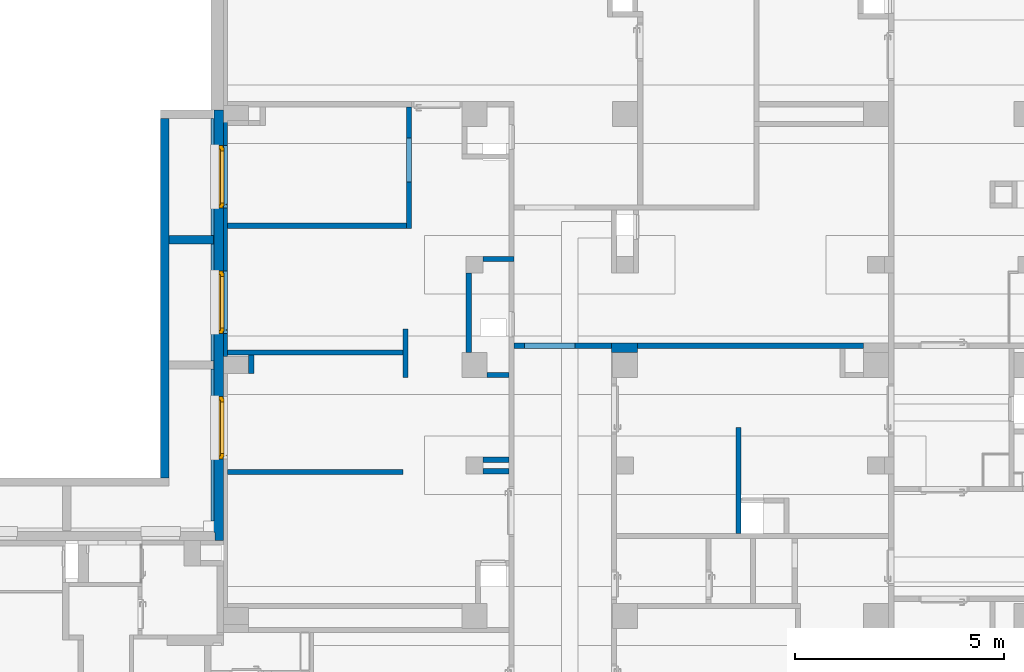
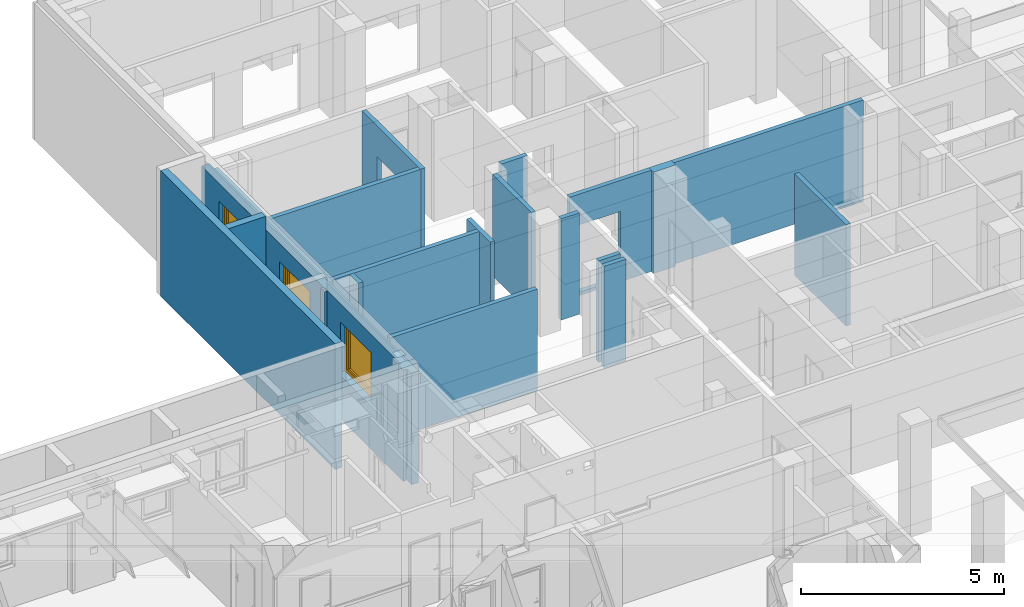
# One storey, part 31 of 84: 19 walls, 3 windows, 8 openings.
"""IFC4 building model written with IfcOpenShell, lengths in metres."""

import ifcopenshell
import ifcopenshell.guid

model = None  # the IFC model being written
_history = None  # IfcOwnerHistory: only IFC2X3 demands one
_inside = {}  # id of a spatial element -> (the spatial element, [elements in it])
_under = {}  # id of a project, library or spatial element -> (it, [spatial elements below it])
_declared = {}  # id of a project -> (the project, [libraries it declares])
_typed = {}  # id of a type object -> (the type object, [elements of that type])
_made_of = {}  # id of a material, layer set ... -> (it, [elements and type objects made of it])


def new_model(schema):
    """Start an empty IFC model of exactly this schema.

    Asked for "IFC4X3", IfcOpenShell would pick the latest addendum, in which some entities
    have other attributes; the version numbers below select the first issue.
    IFC2X3 requires an IfcOwnerHistory on every rooted entity: one is made here for all.
    """
    global model, _history
    if schema == "IFC4X3":
        model = ifcopenshell.file(schema_version=(4, 3, 0, 0))
    else:
        model = ifcopenshell.file(schema=schema)
    _inside.clear()
    _under.clear()
    _declared.clear()
    _typed.clear()
    _made_of.clear()
    _history = None
    if model.schema == "IFC2X3":
        org = make("IfcOrganization", Name="unknown")
        user = make(
            "IfcPersonAndOrganization",
            ThePerson=make("IfcPerson", FamilyName="unknown"),
            TheOrganization=org,
        )
        app = make(
            "IfcApplication",
            ApplicationDeveloper=org,
            Version="unknown",
            ApplicationFullName="unknown",
            ApplicationIdentifier="unknown",
        )
        _history = make(
            "IfcOwnerHistory",
            OwningUser=user,
            OwningApplication=app,
            ChangeAction="ADDED",
            CreationDate=0,
        )
    return model


def make(cls, **values):
    """One entity of the class cls with the attributes given. An attribute that is None is left unset."""
    return model.create_entity(
        cls, **{name: value for name, value in values.items() if value is not None}
    )


def entity(cls, *values):
    """Any entity or typed value of the class cls, its attributes in the order of the schema. None: left unset."""
    e = model.create_entity(cls)
    for i, value in enumerate(values):
        if value is not None:
            e[i] = value
    return e


def rooted(cls, **values):
    """An entity with a GlobalId (a new one), such as an element, a storey or a relation."""
    return make(cls, GlobalId=ifcopenshell.guid.new(), OwnerHistory=_history, **values)


def si_unit(unit_type, name, prefix=None):
    """IfcSIUnit, for example si_unit("LENGTHUNIT", "METRE", prefix="MILLI")."""
    return make("IfcSIUnit", UnitType=unit_type, Prefix=prefix, Name=name)


def converted_unit(unit_type, name, factor, base, dimensions=None, offset=None):
    """IfcConversionBasedUnit, such as the inch: factor (a typed value) times the base unit."""
    return make(
        "IfcConversionBasedUnit"
        if offset is None
        else "IfcConversionBasedUnitWithOffset",
        ConversionOffset=offset,
        Dimensions=None
        if dimensions is None
        else entity("IfcDimensionalExponents", *dimensions),
        UnitType=unit_type,
        Name=name,
        ConversionFactor=make(
            "IfcMeasureWithUnit", ValueComponent=factor, UnitComponent=base
        ),
    )


def derived_unit(unit_type, elements):
    """IfcDerivedUnit: a product of units, each with its exponent."""
    return make(
        "IfcDerivedUnit",
        Elements=[
            make("IfcDerivedUnitElement", Unit=unit, Exponent=power)
            for unit, power in elements
        ],
        UnitType=unit_type,
    )


def assignment(units):
    """IfcUnitAssignment: the units of a project."""
    return None if units is None else make("IfcUnitAssignment", Units=units)


def point(xyz):
    """IfcCartesianPoint."""
    return None if xyz is None else make("IfcCartesianPoint", Coordinates=xyz)


def direction(xyz):
    """IfcDirection."""
    return None if xyz is None else make("IfcDirection", DirectionRatios=xyz)


def frame(location, z_axis=None, x_axis=None):
    """IfcAxis2Placement3D, a coordinate frame: its origin and axes. An axis left out is left unset."""
    return make(
        "IfcAxis2Placement3D",
        Location=point(location),
        Axis=direction(z_axis),
        RefDirection=direction(x_axis),
    )


def frame_2d(location, x_axis=None):
    """IfcAxis2Placement2D, a coordinate frame in the plane: its origin and x axis."""
    return make(
        "IfcAxis2Placement2D", Location=point(location), RefDirection=direction(x_axis)
    )


def origin():
    """The frame at (0, 0, 0) with its axes left unset."""
    return frame((0.0, 0.0, 0.0))


def origin_with_axes():
    """The frame at (0, 0, 0) with the z axis (0, 0, 1) and the x axis (1, 0, 0) written out."""
    return frame((0.0, 0.0, 0.0), z_axis=(0.0, 0.0, 1.0), x_axis=(1.0, 0.0, 0.0))


def place(relative_to, where):
    """IfcLocalPlacement: puts the frame where relative to a parent placement (None: the world)."""
    return make(
        "IfcLocalPlacement", PlacementRelTo=relative_to, RelativePlacement=where
    )


def context(
    kind, dimensions, precision=None, world=None, true_north=None, identifier=None
):
    """IfcGeometricRepresentationContext, for example the 3D "Model" context."""
    return make(
        "IfcGeometricRepresentationContext",
        ContextIdentifier=identifier,
        ContextType=kind,
        CoordinateSpaceDimension=dimensions,
        Precision=precision,
        WorldCoordinateSystem=world,
        TrueNorth=true_north,
    )


def subcontext(parent, identifier, kind, view, scale=None):
    """IfcGeometricRepresentationSubContext, for example "Body" below "Model"."""
    return make(
        "IfcGeometricRepresentationSubContext",
        ContextIdentifier=identifier,
        ContextType=kind,
        ParentContext=parent,
        TargetScale=scale,
        TargetView=view,
    )


def project(units=None, contexts=None):
    """IfcProject with its units and contexts."""
    return rooted(
        "IfcProject",
        Name="project",
        RepresentationContexts=contexts,
        UnitsInContext=assignment(units),
    )


def spatial(cls, under=None, at=None, **own):
    """A site, building, storey or space (cls), placed at a placement, below another one or the project."""
    s = rooted(cls, ObjectPlacement=at, **own)
    if under is not None:
        _under.setdefault(under.id(), (under, []))[1].append(s)
    return s


def polyline(points):
    """IfcPolyline through the points."""
    return make("IfcPolyline", Points=[point(p) for p in points])


def profile(cls, at=None, kind="AREA", **sizes):
    """A parametric profile (cls). Its sizes go by their IFC names, for example OverallWidth=200.0."""
    return make(cls, ProfileType=kind, Position=at, **sizes)


def rectangle(**sizes):
    """IfcRectangleProfileDef."""
    return profile("IfcRectangleProfileDef", **sizes)


def outline(outer, holes=None, kind="AREA"):
    """IfcArbitraryClosedProfileDef: a profile drawn as a closed curve; with holes, ...WithVoids."""
    if holes is None:
        return make("IfcArbitraryClosedProfileDef", ProfileType=kind, OuterCurve=outer)
    return make(
        "IfcArbitraryProfileDefWithVoids",
        ProfileType=kind,
        OuterCurve=outer,
        InnerCurves=holes,
    )


def extrude(swept, where, along, depth):
    """IfcExtrudedAreaSolid: the profile swept, set in the frame where, extruded along a direction by depth."""
    return make(
        "IfcExtrudedAreaSolid",
        SweptArea=swept,
        Position=where,
        ExtrudedDirection=direction(along),
        Depth=depth,
    )


def clip(a, b, op="DIFFERENCE"):
    """IfcBooleanClippingResult: the solid a cut by the half space b."""
    return make(
        "IfcBooleanClippingResult", Operator=op, FirstOperand=a, SecondOperand=b
    )


def bounded_halfspace(plane, agree, where, boundary):
    """IfcPolygonalBoundedHalfSpace: a half space limited to a polygon's prism."""
    return make(
        "IfcPolygonalBoundedHalfSpace",
        BaseSurface=make("IfcPlane", Position=plane),
        AgreementFlag=agree,
        Position=where,
        PolygonalBoundary=boundary,
    )


def faces_of(points, faces, orient=None, outer=None):
    """IfcFace entities. A face is a list of loops; a loop is a list of indices into points, from 0.

    orient and outer hold one flag for each loop. By default every Orientation is true, the
    first loop of a face is its IfcFaceOuterBound and the others are IfcFaceBound.
    """
    made = []
    for i, loops in enumerate(faces):
        bounds = []
        for j, loop in enumerate(loops):
            is_outer = j == 0 if outer is None else outer[i][j]
            bounds.append(
                make(
                    "IfcFaceOuterBound" if is_outer else "IfcFaceBound",
                    Bound=make("IfcPolyLoop", Polygon=[points[k] for k in loop]),
                    Orientation=True if orient is None else orient[i][j],
                )
            )
        made.append(make("IfcFace", Bounds=bounds))
    return made


def closed_shell(faces, orient=None, outer=None):
    """The faces of one IfcClosedShell. faceted_brep and surface_model build it on their shared points."""
    return ("IfcClosedShell", faces, orient, outer)


def open_shell(faces, orient=None, outer=None):
    """The faces of one IfcOpenShell. surface_model builds it on its shared points."""
    return ("IfcOpenShell", faces, orient, outer)


def surface_model(cls, points, shells):
    """IfcFaceBasedSurfaceModel or IfcShellBasedSurfaceModel (cls): surfaces that need not close."""
    shared = [point(p) for p in points]
    made = [make(c, CfsFaces=faces_of(shared, fs, o, b)) for c, fs, o, b in shells]
    if cls == "IfcFaceBasedSurfaceModel":
        return make(cls, FbsmFaces=made)
    return make(cls, SbsmBoundary=made)


def shape(context_of_items, identifier, shape_type, items):
    """IfcShapeRepresentation: the items that make up one representation, for example the "Body"."""
    return make(
        "IfcShapeRepresentation",
        ContextOfItems=context_of_items,
        RepresentationIdentifier=identifier,
        RepresentationType=shape_type,
        Items=items,
    )


def source(mapping_origin, context_of_items, identifier, shape_type, items):
    """IfcRepresentationMap: a shape defined once, which mapped items show again and again."""
    return make(
        "IfcRepresentationMap",
        MappingOrigin=mapping_origin,
        MappedRepresentation=shape(context_of_items, identifier, shape_type, items),
    )


def transform(
    local_origin,
    x_axis=None,
    y_axis=None,
    z_axis=None,
    scale=None,
    scale2=None,
    scale3=None,
    uniform=True,
):
    """IfcCartesianTransformationOperator3D, or its non-uniform kind. x_axis, y_axis, z_axis: its Axis1, 2, 3."""
    if uniform:
        return make(
            "IfcCartesianTransformationOperator3D",
            Axis1=direction(x_axis),
            Axis2=direction(y_axis),
            LocalOrigin=point(local_origin),
            Scale=scale,
            Axis3=direction(z_axis),
        )
    return make(
        "IfcCartesianTransformationOperator3DnonUniform",
        Axis1=direction(x_axis),
        Axis2=direction(y_axis),
        LocalOrigin=point(local_origin),
        Scale=scale,
        Axis3=direction(z_axis),
        Scale2=scale2,
        Scale3=scale3,
    )


def mapped(mapping_source, mapping_target):
    """IfcMappedItem: shows the shape of a source again, moved by a transform."""
    return make(
        "IfcMappedItem", MappingSource=mapping_source, MappingTarget=mapping_target
    )


def material(Name=None, Category=None):
    """IfcMaterial."""
    return make("IfcMaterial", Name=Name, Category=Category)


def layer(
    of_material, thickness, ventilated=None, Name=None, Category=None, Priority=None
):
    """IfcMaterialLayer: one layer of a wall or slab, of a material (None: an air gap)."""
    return make(
        "IfcMaterialLayer",
        Material=of_material,
        LayerThickness=thickness,
        IsVentilated=ventilated,
        Name=Name,
        Category=Category,
        Priority=Priority,
    )


def layer_set(layers, Name=None):
    """IfcMaterialLayerSet."""
    return make("IfcMaterialLayerSet", MaterialLayers=layers, LayerSetName=Name)


def layer_usage(for_layer_set, set_direction, sense, offset, extent=None):
    """IfcMaterialLayerSetUsage: how a layer set lies in its element."""
    return make(
        "IfcMaterialLayerSetUsage",
        ForLayerSet=for_layer_set,
        LayerSetDirection=set_direction,
        DirectionSense=sense,
        OffsetFromReferenceLine=offset,
        ReferenceExtent=extent,
    )


def made_of(thing, what):
    """Note that an element or type object is made of a material, layer set ...; save() writes the relation."""
    if what is not None:
        _made_of.setdefault(what.id(), (what, []))[1].append(thing)
    return thing


def element(
    cls,
    number,
    at=None,
    inside=None,
    cuts=None,
    type_object=None,
    material=None,
    context=None,
    identifier="Body",
    shape_type=None,
    held_by="IfcProductDefinitionShape",
    body=None,
    shapes=None,
    **own,
):
    """One element of the class cls, such as IfcWall. Its Tag is "e" and its number.

    at: its placement. inside: the storey or other place that contains it. cuts: it is an
    opening in that element (IfcRelVoidsElement). A single representation is given by context,
    identifier, shape_type and body (its items); several are given by shapes. held_by: the class
    of the entity that holds the representations. save() writes the other relations.
    """
    e = rooted(cls, Tag="e%d" % number, ObjectPlacement=at, **own)
    if body is not None:
        shapes = [shape(context, identifier, shape_type, body)]
    if shapes is not None:
        e.Representation = make(held_by, Representations=shapes)
    if inside is not None:
        _inside.setdefault(inside.id(), (inside, []))[1].append(e)
    if cuts is not None:
        rooted(
            "IfcRelVoidsElement", RelatingBuildingElement=cuts, RelatedOpeningElement=e
        )
    if type_object is not None:
        _typed.setdefault(type_object.id(), (type_object, []))[1].append(e)
    return made_of(e, material)


def fill(opening, filler):
    """IfcRelFillsElement: the door or window that sits in an opening."""
    return rooted(
        "IfcRelFillsElement",
        RelatingOpeningElement=opening,
        RelatedBuildingElement=filler,
    )


def aggregate(whole, parts):
    """IfcRelAggregates: a whole, such as a stair, and the parts it consists of."""
    return rooted("IfcRelAggregates", RelatingObject=whole, RelatedObjects=parts)


def save(model, path):
    """Write the relations noted so far, then the file.

    IfcRelAggregates (storeys below a building ...), IfcRelContainedInSpatialStructure (elements
    in a storey), IfcRelDefinesByType, IfcRelAssociatesMaterial and IfcRelDeclares: one each for
    every whole, place, type object, material and project.
    """
    for whole, parts in _under.values():
        aggregate(whole, parts)
    for where, things in _inside.values():
        rooted(
            "IfcRelContainedInSpatialStructure",
            RelatedElements=things,
            RelatingStructure=where,
        )
    for kind, things in _typed.values():
        rooted("IfcRelDefinesByType", RelatedObjects=things, RelatingType=kind)
    for what, things in _made_of.values():
        rooted("IfcRelAssociatesMaterial", RelatedObjects=things, RelatingMaterial=what)
    for by, libraries in _declared.values():
        rooted("IfcRelDeclares", RelatingContext=by, RelatedDefinitions=libraries)
    model.write(path)


model = new_model("IFC4")

# Units and contexts
model_context = context("Model", 3, precision=1e-05, world=origin())
body_context = subcontext(model_context, "Body", "Model", "MODEL_VIEW")
ifc_project = project(units=[si_unit("LENGTHUNIT", "METRE"), si_unit("AREAUNIT", "SQUARE_METRE"), si_unit("VOLUMEUNIT", "CUBIC_METRE"), si_unit("MASSUNIT", "GRAM", prefix="KILO"), converted_unit("PLANEANGLEUNIT", "DEGREE", entity("IfcPlaneAngleMeasure", 0.0174532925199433), si_unit("PLANEANGLEUNIT", "RADIAN"), dimensions=[0, 0, 0, 0, 0, 0, 0]), derived_unit("THERMALTRANSMITTANCEUNIT", [(si_unit("POWERUNIT", "WATT"), 1), (si_unit("THERMODYNAMICTEMPERATUREUNIT", "KELVIN"), -1), (si_unit("LENGTHUNIT", "METRE"), -2)]), derived_unit("VOLUMETRICFLOWRATEUNIT", [(si_unit("LENGTHUNIT", "METRE"), 3), (converted_unit("TIMEUNIT", "hour", entity("IfcTimeMeasure", 3600.0), si_unit("TIMEUNIT", "SECOND"), dimensions=[0, 0, 1, 0, 0, 0, 0]), -1), (si_unit("LENGTHUNIT", "METRE"), -1)])], contexts=[model_context])

# Site, building, storey
site_placement = place(None, origin())
site = spatial("IfcSite", under=ifc_project, at=site_placement, Name="3. ASŘ", CompositionType="ELEMENT")
building_placement = place(site_placement, origin())
building = spatial("IfcBuilding", under=site, at=building_placement, Name="Pavilon C", CompositionType="ELEMENT")
storey_placement = place(building_placement, frame((0.0, 0.0, -3.3)))
storey = spatial("IfcBuildingStorey", under=building, at=storey_placement, Name="Půdorys 1.PP", CompositionType="ELEMENT", Elevation=-3.3)

# Wall
ifc_material_1 = material(Name="ZELEZOBETONOVÁ KCE")
ifc_layer_1 = layer(ifc_material_1, 0.2)
ifc_layer_set_1 = layer_set([ifc_layer_1])
ifc_layer_usage_1 = layer_usage(ifc_layer_set_1, "AXIS2", "POSITIVE", 0.0)
wall_1_placement = place(storey_placement, frame((23.445, 16.505, -0.4), z_axis=(0.0, 0.0, 1.0), x_axis=(4.23266876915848e-16, 1.0, 0.0)))
element("IfcWall", 1, at=wall_1_placement, inside=storey, material=ifc_layer_usage_1, Name="ZELEZOBETONOVÁ KCE", context=body_context, shape_type="SweptSolid", body=[
    extrude(rectangle(XDim=8.595, YDim=0.2, at=frame_2d((4.2975, 0.1), x_axis=(1.0, 0.0))), origin_with_axes(), (0.0, 0.0, 1.0), 3.78),
])

# Wall, opening
ifc_material_2 = material(Name="ZELEZOBETONOVÁ KCE")
ifc_layer_2 = layer(ifc_material_2, 0.2)
ifc_layer_set_2 = layer_set([ifc_layer_2])
ifc_layer_usage_2 = layer_usage(ifc_layer_set_2, "AXIS2", "POSITIVE", -0.1)
wall_2_placement = place(storey_placement, frame((23.445, 22.1, -0.4)))
wall_2 = element("IfcWall", 2, at=wall_2_placement, inside=storey, material=ifc_layer_usage_2, Name="ZELEZOBETONOVÁ KCE", context=body_context, shape_type="SweptSolid", body=[
    extrude(rectangle(XDim=1.06, YDim=0.2, at=frame_2d((0.53, 0.1), x_axis=(1.0, 0.0))), origin_with_axes(), (0.0, 0.0, 1.0), 3.78),
])
opening_1_placement = place(wall_2_placement, frame((0.279999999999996, 0.0, 0.8), z_axis=(0.0, 1.0, 0.0), x_axis=(0.0, 0.0, 1.0)))
element("IfcOpeningElement", 3, at=opening_1_placement, cuts=wall_2, Name="Prostup stěnou", ObjectType="Opening", context=body_context, shape_type="SweptSolid", body=[
    extrude(outline(polyline([(0.0, 0.4), (0.6, 0.4), (0.6, 0.0), (0.0, 0.0), (0.0, 0.4)])), origin_with_axes(), (0.0, 0.0, 1.0), 0.2),
])

# Wall, openings, windows
ifc_material_3 = material(Name="ZELEZOBETONOVÁ KCE")
ifc_layer_3 = layer(ifc_material_3, 0.2)
ifc_material_4 = material(Name="LIGNOPOR")
ifc_layer_4 = layer(ifc_material_4, 0.0249999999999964)
ifc_material_5 = material(Name="PÓROBETONOVÉ ZDIVO")
ifc_layer_5 = layer(ifc_material_5, 0.08)
ifc_layer_set_3 = layer_set([ifc_layer_3, ifc_layer_4, ifc_layer_5])
ifc_layer_usage_3 = layer_usage(ifc_layer_set_3, "AXIS2", "POSITIVE", 0.0)
wall_3_placement = place(storey_placement, frame((24.75, 15.0, -0.4), z_axis=(0.0, 0.0, 1.0), x_axis=(3.53201825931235e-16, 1.0, 0.0)))
wall_3 = element("IfcWall", 4, at=wall_3_placement, inside=storey, material=ifc_layer_usage_3, Name="ZELEZOBETONOVÁ KCE", context=body_context, shape_type="Clipping", body=[
    clip(clip(extrude(outline(polyline([(0.2, -0.0799999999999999), (0.2, -0.105), (3.70861917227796e-17, -0.105), (1.07726556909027e-16, -0.305), (10.3, -0.305), (10.3, -0.0800000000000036), (10.1, -0.0800000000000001), (10.1, -7.06403651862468e-17), (0.224999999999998, 7.94704108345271e-17), (0.224999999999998, -0.0799999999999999), (0.2, -0.0799999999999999)])), frame((-1.07726556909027e-16, 0.305, 0.0), z_axis=(0.0, 0.0, 1.0), x_axis=(1.0, 0.0, 0.0)), (0.0, 0.0, 1.0), 3.35), bounded_halfspace(frame((5.2625, 0.216666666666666, 0.4), z_axis=(0.0, 0.0, 1.0), x_axis=(-1.0, 4.02741822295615e-16, 0.0)), True, origin_with_axes(), polyline([(10.1, 0.224999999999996), (0.474999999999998, 0.225), (0.2, 0.225), (0.2, 0.2), (10.3, 0.2), (10.3, 0.224999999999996), (10.1, 0.224999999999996)]))), bounded_halfspace(frame((5.5625, 0.271666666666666, 1.3), z_axis=(0.0, 0.0, -1.0), x_axis=(3.53201825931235e-16, -1.0, 0.0)), True, origin_with_axes(), polyline([(0.474999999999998, 0.305), (0.474999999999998, 0.225), (10.1, 0.225), (10.1, 0.305), (7.3, 0.304999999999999), (7.3, 0.244999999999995), (7.1, 0.244999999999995), (7.1, 0.304999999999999), (4.3, 0.304999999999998), (4.3, 0.244999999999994), (4.1, 0.244999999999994), (4.1, 0.304999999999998), (0.474999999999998, 0.305)]))),
])
opening_2_placement = place(wall_3_placement, frame((3.45, 0.200000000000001, 1.3), z_axis=(0.0, -1.0, 0.0), x_axis=(0.0, 0.0, 1.0)))
opening_2 = element("IfcOpeningElement", 5, at=opening_2_placement, cuts=wall_3, Name="Okenní otvor", ObjectType="Opening", context=body_context, shape_type="SweptSolid", body=[
    extrude(outline(polyline([(0.0, 1.5), (1.5, 1.5), (1.5, 0.0), (0.0, 0.0), (0.0, 1.5)])), origin_with_axes(), (0.0, 0.0, 1.0), 0.2),
    extrude(outline(polyline([(0.0, 1.5), (1.5, 1.5), (1.5, 0.0), (0.0, 0.0), (0.0, 1.5)])), frame((0.0, 0.0, -0.025), z_axis=(0.0, 0.0, 1.0), x_axis=(1.0, 0.0, 0.0)), (0.0, 0.0, 1.0), 0.025),
    extrude(outline(polyline([(0.0, 1.5), (1.5, 1.5), (1.5, 0.0), (0.0, 0.0), (0.0, 1.5)])), frame((0.0, 0.0, -0.105), z_axis=(0.0, 0.0, 1.0), x_axis=(1.0, 0.0, 0.0)), (0.0, 0.0, 1.0), 0.08),
])
opening_3_placement = place(wall_3_placement, frame((6.45000000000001, 0.20000000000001, 1.3), z_axis=(0.0, -1.0, 0.0), x_axis=(0.0, 0.0, 1.0)))
opening_3 = element("IfcOpeningElement", 6, at=opening_3_placement, cuts=wall_3, Name="Okenní otvor", ObjectType="Opening", context=body_context, shape_type="SweptSolid", body=[
    extrude(outline(polyline([(0.0, 1.5), (1.5, 1.5), (1.5, 0.0), (0.0, 0.0), (0.0, 1.5)])), origin_with_axes(), (0.0, 0.0, 1.0), 0.2),
    extrude(outline(polyline([(0.0, 1.5), (1.5, 1.5), (1.5, 0.0), (0.0, 0.0), (0.0, 1.5)])), frame((0.0, 0.0, -0.025), z_axis=(0.0, 0.0, 1.0), x_axis=(1.0, 0.0, 0.0)), (0.0, 0.0, 1.0), 0.025),
    extrude(outline(polyline([(0.0, 1.5), (1.5, 1.5), (1.5, 0.0), (0.0, 0.0), (0.0, 1.5)])), frame((0.0, 0.0, -0.105), z_axis=(0.0, 0.0, 1.0), x_axis=(1.0, 0.0, 0.0)), (0.0, 0.0, 1.0), 0.08),
])
opening_4_placement = place(wall_3_placement, frame((9.45000000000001, 0.200000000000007, 1.3), z_axis=(0.0, -1.0, 0.0), x_axis=(0.0, 0.0, 1.0)))
opening_4 = element("IfcOpeningElement", 7, at=opening_4_placement, cuts=wall_3, Name="Okenní otvor", ObjectType="Opening", context=body_context, shape_type="SweptSolid", body=[
    extrude(outline(polyline([(0.0, 1.5), (1.5, 1.5), (1.5, 0.0), (0.0, 0.0), (0.0, 1.5)])), origin_with_axes(), (0.0, 0.0, 1.0), 0.2),
    extrude(outline(polyline([(0.0, 1.5), (1.5, 1.5), (1.5, 0.0), (0.0, 0.0), (0.0, 1.5)])), frame((0.0, 0.0, -0.025), z_axis=(0.0, 0.0, 1.0), x_axis=(1.0, 0.0, 0.0)), (0.0, 0.0, 1.0), 0.025),
    extrude(outline(polyline([(0.0, 1.5), (1.5, 1.5), (1.5, 0.0), (0.0, 0.0), (0.0, 1.5)])), frame((0.0, 0.0, -0.105), z_axis=(0.0, 0.0, 1.0), x_axis=(1.0, 0.0, 0.0)), (0.0, 0.0, 1.0), 0.08),
])
shared_shape = source(origin_with_axes(), body_context, "Body", "SurfaceModel", [
    surface_model("IfcShellBasedSurfaceModel", [(0.0, 0.182, 1.5), (0.0, 0.182, -5.63337527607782e-18), (0.08, 0.182, -5.63337527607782e-18), (0.08, 0.182, 1.5), (0.0, 0.0899999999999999, 5.63337527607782e-18), (0.0, 0.0900000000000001, 1.5), (0.08, 0.0900000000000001, 1.5), (0.08, 0.0899999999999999, 5.63337527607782e-18)], [closed_shell([[[0, 1, 2, 3]], [[4, 5, 6, 7]], [[1, 0, 5, 4]], [[2, 1, 4, 7]], [[3, 2, 7, 6]], [[0, 3, 6, 5]]], orient=[[False], [False], [False], [False], [False], [False]])]),
    surface_model("IfcShellBasedSurfaceModel", [(1.42, 0.182, 1.5), (1.42, 0.182, -5.63337527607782e-18), (1.5, 0.182, -5.63337527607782e-18), (1.5, 0.182, 1.5), (1.42, 0.0899999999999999, 5.63337527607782e-18), (1.42, 0.0900000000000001, 1.5), (1.5, 0.0900000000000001, 1.5), (1.5, 0.0899999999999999, 5.63337527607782e-18)], [closed_shell([[[0, 1, 2, 3]], [[4, 5, 6, 7]], [[1, 0, 5, 4]], [[2, 1, 4, 7]], [[3, 2, 7, 6]], [[0, 3, 6, 5]]], orient=[[False], [False], [False], [False], [False], [False]])]),
    surface_model("IfcShellBasedSurfaceModel", [(0.08, 0.182, 0.08), (0.08, 0.182, -5.63337527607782e-18), (1.42, 0.182, -5.63337527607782e-18), (1.42, 0.182, 0.08), (0.08, 0.0899999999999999, 5.63337527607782e-18), (0.08, 0.0899999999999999, 0.08), (1.42, 0.0899999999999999, 0.08), (1.42, 0.0899999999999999, 5.63337527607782e-18)], [closed_shell([[[0, 1, 2, 3]], [[4, 5, 6, 7]], [[1, 0, 5, 4]], [[2, 1, 4, 7]], [[3, 2, 7, 6]], [[0, 3, 6, 5]]], orient=[[False], [False], [False], [False], [False], [False]])]),
    surface_model("IfcShellBasedSurfaceModel", [(0.08, 0.182, 1.5), (0.08, 0.182, 1.42), (1.42, 0.182, 1.42), (1.42, 0.182, 1.5), (0.08, 0.0900000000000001, 1.42), (0.08, 0.0900000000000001, 1.5), (1.42, 0.0900000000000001, 1.5), (1.42, 0.0900000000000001, 1.42)], [closed_shell([[[0, 1, 2, 3]], [[4, 5, 6, 7]], [[1, 0, 5, 4]], [[2, 1, 4, 7]], [[3, 2, 7, 6]], [[0, 3, 6, 5]]], orient=[[False], [False], [False], [False], [False], [False]])]),
    surface_model("IfcShellBasedSurfaceModel", [(0.05, 0.145, 1.45), (0.05, 0.145, 0.05), (0.13, 0.145, 0.05), (0.13, 0.145, 1.45), (0.05, 0.0599999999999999, 0.05), (0.05, 0.0600000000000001, 1.45), (0.13, 0.0600000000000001, 1.45), (0.13, 0.0599999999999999, 0.05)], [closed_shell([[[0, 1, 2, 3]], [[4, 5, 6, 7]], [[1, 0, 5, 4]], [[2, 1, 4, 7]], [[3, 2, 7, 6]], [[0, 3, 6, 5]]], orient=[[False], [False], [False], [False], [False], [False]])]),
    surface_model("IfcShellBasedSurfaceModel", [(1.37, 0.145, 1.45), (1.37, 0.145, 0.05), (1.45, 0.145, 0.05), (1.45, 0.145, 1.45), (1.37, 0.0599999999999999, 0.05), (1.37, 0.0600000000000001, 1.45), (1.45, 0.0600000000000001, 1.45), (1.45, 0.0599999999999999, 0.05)], [closed_shell([[[0, 1, 2, 3]], [[4, 5, 6, 7]], [[1, 0, 5, 4]], [[2, 1, 4, 7]], [[3, 2, 7, 6]], [[0, 3, 6, 5]]], orient=[[False], [False], [False], [False], [False], [False]])]),
    surface_model("IfcShellBasedSurfaceModel", [(0.13, 0.145, 0.13), (0.13, 0.145, 0.05), (1.37, 0.145, 0.05), (1.37, 0.145, 0.13), (0.13, 0.0599999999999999, 0.05), (0.13, 0.0599999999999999, 0.13), (1.37, 0.0599999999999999, 0.13), (1.37, 0.0599999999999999, 0.05)], [closed_shell([[[0, 1, 2, 3]], [[4, 5, 6, 7]], [[1, 0, 5, 4]], [[2, 1, 4, 7]], [[3, 2, 7, 6]], [[0, 3, 6, 5]]], orient=[[False], [False], [False], [False], [False], [False]])]),
    surface_model("IfcShellBasedSurfaceModel", [(0.13, 0.145, 1.45), (0.13, 0.145, 1.37), (1.37, 0.145, 1.37), (1.37, 0.145, 1.45), (0.13, 0.0600000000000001, 1.37), (0.13, 0.0600000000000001, 1.45), (1.37, 0.0600000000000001, 1.45), (1.37, 0.0600000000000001, 1.37)], [closed_shell([[[0, 1, 2, 3]], [[4, 5, 6, 7]], [[1, 0, 5, 4]], [[2, 1, 4, 7]], [[3, 2, 7, 6]], [[0, 3, 6, 5]]], orient=[[False], [False], [False], [False], [False], [False]])]),
    surface_model("IfcShellBasedSurfaceModel", [(1.3975, 0.06, 0.77), (1.3975, 0.06, 0.73), (1.4225, 0.06, 0.73), (1.4225, 0.06, 0.77), (1.3975, 0.05, 0.73), (1.3975, 0.05, 0.77), (1.4225, 0.05, 0.77), (1.4225, 0.05, 0.73)], [closed_shell([[[0, 1, 2, 3]], [[4, 5, 6, 7]], [[1, 0, 5, 4]], [[2, 1, 4, 7]], [[3, 2, 7, 6]], [[0, 3, 6, 5]]], orient=[[False], [False], [False], [False], [False], [False]])]),
    surface_model("IfcShellBasedSurfaceModel", [(1.42, 0.05, 0.75), (1.41866025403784, 0.05, 0.755), (1.415, 0.05, 0.758660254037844), (1.41, 0.05, 0.76), (1.405, 0.05, 0.758660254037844), (1.40133974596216, 0.05, 0.755), (1.4, 0.05, 0.75), (1.40133974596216, 0.05, 0.745), (1.405, 0.05, 0.741339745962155), (1.41, 0.05, 0.74), (1.415, 0.05, 0.741339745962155), (1.41866025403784, 0.05, 0.745), (1.42, 0.01, 0.75), (1.41866025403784, 0.00500000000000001, 0.755), (1.415, 0.00133974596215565, 0.758660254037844), (1.41, 2.8421709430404e-17, 0.76), (1.405, 0.00133974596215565, 0.758660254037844), (1.40133974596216, 0.00500000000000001, 0.755), (1.4, 0.01, 0.75), (1.40133974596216, 0.015, 0.745), (1.405, 0.0186602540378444, 0.741339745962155), (1.41, 0.02, 0.74), (1.415, 0.0186602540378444, 0.741339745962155), (1.41866025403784, 0.015, 0.745), (1.42, 0.01, 0.635), (1.41866025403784, 0.005, 0.635), (1.415, 0.00133974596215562, 0.635), (1.41, 0.0, 0.635), (1.405, 0.00133974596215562, 0.635), (1.40133974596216, 0.005, 0.635), (1.4, 0.01, 0.635), (1.40133974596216, 0.015, 0.635), (1.405, 0.0186602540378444, 0.635), (1.41, 0.02, 0.635), (1.415, 0.0186602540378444, 0.635), (1.41866025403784, 0.015, 0.635)], [open_shell([[[0, 1, 2, 3, 4, 5, 6, 7, 8, 9, 10, 11]], [[0, 12, 13, 1]], [[1, 13, 14, 2]], [[2, 14, 15, 3]], [[3, 15, 16, 4]], [[4, 16, 17, 5]], [[5, 17, 18, 6]], [[6, 18, 19, 7]], [[7, 19, 20, 8]], [[8, 20, 21, 9]], [[9, 21, 22, 10]], [[10, 22, 23, 11]], [[11, 23, 12, 0]], [[12, 24, 25, 13]], [[13, 25, 26, 14]], [[14, 26, 27, 15]], [[15, 27, 28, 16]], [[16, 28, 29, 17]], [[17, 29, 30, 18]], [[18, 30, 31, 19]], [[19, 31, 32, 20]], [[20, 32, 33, 21]], [[21, 33, 34, 22]], [[22, 34, 35, 23]], [[23, 35, 24, 12]]], orient=[[False], [False], [False], [False], [False], [False], [False], [False], [False], [False], [False], [False], [False], [False], [False], [False], [False], [False], [False], [False], [False], [False], [False], [False], [False]])]),
    surface_model("IfcShellBasedSurfaceModel", [(0.13, 0.1025, 0.13), (1.37, 0.1025, 0.13), (1.37, 0.1025, 1.37), (0.13, 0.1025, 1.37)], [open_shell([[[0, 1, 2, 3]]], orient=[[False]])]),
])
window_1_placement = place(opening_2_placement, frame((0.0, 7.27595761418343e-15, 0.276999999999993), z_axis=(1.0, 0.0, 0.0), x_axis=(0.0, 1.0, 2.30737146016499e-16)))
window_1 = element("IfcWindow", 8, at=window_1_placement, inside=storey, Name="O06", OverallHeight=1.5, OverallWidth=1.5, PartitioningType="USERDEFINED", PredefinedType="WINDOW", context=body_context, shape_type="MappedRepresentation", body=[
    mapped(shared_shape, transform((0.0, 0.0, 0.0), x_axis=(1.0, 0.0, 0.0), y_axis=(0.0, -1.0, 0.0), z_axis=(0.0, 0.0, 1.0), scale=1.0)),
])
fill(opening_2, window_1)
window_2_placement = place(opening_3_placement, frame((0.0, 7.27595761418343e-15, 0.276999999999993), z_axis=(1.0, 0.0, 0.0), x_axis=(0.0, 1.0, 2.30737146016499e-16)))
window_2 = element("IfcWindow", 9, at=window_2_placement, inside=storey, Name="O06", OverallHeight=1.5, OverallWidth=1.5, PartitioningType="USERDEFINED", PredefinedType="WINDOW", context=body_context, shape_type="MappedRepresentation", body=[
    mapped(shared_shape, transform((0.0, 0.0, 0.0), x_axis=(1.0, 0.0, 0.0), y_axis=(0.0, -1.0, 0.0), z_axis=(0.0, 0.0, 1.0), scale=1.0)),
])
fill(opening_3, window_2)
window_3_placement = place(opening_4_placement, frame((0.0, 7.27595761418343e-15, 0.276999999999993), z_axis=(1.0, 0.0, 0.0), x_axis=(0.0, 1.0, 2.30737146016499e-16)))
window_3 = element("IfcWindow", 10, at=window_3_placement, inside=storey, Name="O06", OverallHeight=1.5, OverallWidth=1.5, PartitioningType="USERDEFINED", PredefinedType="WINDOW", context=body_context, shape_type="MappedRepresentation", body=[
    mapped(shared_shape, transform((0.0, 0.0, 0.0), x_axis=(1.0, 0.0, 0.0), y_axis=(0.0, -1.0, 0.0), z_axis=(0.0, 0.0, 1.0), scale=1.0)),
])
fill(opening_4, window_3)

# Wall, opening
ifc_material_6 = material(Name="ZDIVO Z CDm")
ifc_layer_6 = layer(ifc_material_6, 0.125)
ifc_layer_set_4 = layer_set([ifc_layer_6])
ifc_layer_usage_4 = layer_usage(ifc_layer_set_4, "AXIS2", "POSITIVE", 0.0)
wall_4_placement = place(storey_placement, frame((31.7, 19.6, -0.1)))
wall_4 = element("IfcWall", 11, at=wall_4_placement, inside=storey, material=ifc_layer_usage_4, Name="ZDIVO Z CDm", context=body_context, shape_type="SweptSolid", body=[
    extrude(rectangle(XDim=2.325, YDim=0.125, at=frame_2d((1.1625, 0.0625), x_axis=(1.0, 0.0))), origin_with_axes(), (0.0, 0.0, 1.0), 3.05),
])
opening_5_placement = place(wall_4_placement, frame((0.25, 0.0, 0.1), z_axis=(0.0, 1.0, 0.0), x_axis=(0.0, 0.0, 1.0)))
element("IfcOpeningElement", 12, at=opening_5_placement, cuts=wall_4, Name="Dveřní otvor", ObjectType="Opening", context=body_context, shape_type="SweptSolid", body=[
    extrude(outline(polyline([(0.0, 1.2), (2.02, 1.2), (2.02, 0.0), (0.0, 0.0), (0.0, 1.2)])), origin_with_axes(), (0.0, 0.0, 1.0), 0.125),
])

# Walls
ifc_material_7 = material(Name="ZDIVO Z CDm")
ifc_layer_7 = layer(ifc_material_7, 0.125)
ifc_layer_set_5 = layer_set([ifc_layer_7])
ifc_layer_usage_5 = layer_usage(ifc_layer_set_5, "AXIS2", "POSITIVE", 0.0)
wall_5_placement = place(storey_placement, frame((34.65, 19.6, -0.1)))
element("IfcWall", 13, at=wall_5_placement, inside=storey, material=ifc_layer_usage_5, Name="ZDIVO Z CDm", context=body_context, shape_type="SweptSolid", body=[
    extrude(rectangle(XDim=5.4, YDim=0.125, at=frame_2d((2.7, 0.0625), x_axis=(1.0, 0.0))), origin_with_axes(), (0.0, 0.0, 1.0), 3.05),
])
ifc_material_8 = material(Name="ZDIVO Z CDm")
ifc_layer_8 = layer(ifc_material_8, 0.225)
ifc_layer_set_6 = layer_set([ifc_layer_8])
ifc_layer_usage_6 = layer_usage(ifc_layer_set_6, "AXIS2", "POSITIVE", 0.0)
wall_6_placement = place(storey_placement, frame((34.025, 19.5, -0.1)))
element("IfcWall", 14, at=wall_6_placement, inside=storey, material=ifc_layer_usage_6, Name="ZDIVO Z CDm", context=body_context, shape_type="SweptSolid", body=[
    extrude(rectangle(XDim=0.625, YDim=0.225, at=frame_2d((0.3125, 0.1125), x_axis=(1.0, 0.0))), origin_with_axes(), (0.0, 0.0, 1.0), 3.05),
])
ifc_material_9 = material(Name="ZDIVO Z CDm")
ifc_layer_9 = layer(ifc_material_9, 0.125)
ifc_layer_set_7 = layer_set([ifc_layer_9])
ifc_layer_usage_7 = layer_usage(ifc_layer_set_7, "AXIS2", "POSITIVE", 0.0)
wall_7_placement = place(storey_placement, frame((30.95, 16.6, -0.1)))
element("IfcWall", 15, at=wall_7_placement, inside=storey, material=ifc_layer_usage_7, Name="ZDIVO Z CDm", context=body_context, shape_type="SweptSolid", body=[
    extrude(rectangle(XDim=0.625, YDim=0.125, at=frame_2d((0.3125, 0.0625), x_axis=(1.0, 0.0))), origin_with_axes(), (0.0, 0.0, 1.0), 3.05),
])
ifc_material_10 = material(Name="ZDIVO Z CDm")
ifc_layer_10 = layer(ifc_material_10, 0.125)
ifc_layer_set_8 = layer_set([ifc_layer_10])
ifc_layer_usage_8 = layer_usage(ifc_layer_set_8, "AXIS2", "POSITIVE", 0.0)
wall_8_placement = place(storey_placement, frame((31.575, 17.0, -0.1), z_axis=(0.0, 0.0, 1.0), x_axis=(-1.0, 0.0, 0.0)))
element("IfcWall", 16, at=wall_8_placement, inside=storey, material=ifc_layer_usage_8, Name="ZDIVO Z CDm", context=body_context, shape_type="SweptSolid", body=[
    extrude(rectangle(XDim=0.625, YDim=0.125, at=frame_2d((0.3125, 0.0625), x_axis=(1.0, 0.0))), origin_with_axes(), (0.0, 0.0, 1.0), 3.05),
])

# Wall, openings
ifc_material_11 = material(Name="PÓROBETONOVÉ ZDIVO")
ifc_layer_11 = layer(ifc_material_11, 0.1)
ifc_layer_set_9 = layer_set([ifc_layer_11])
ifc_layer_usage_9 = layer_usage(ifc_layer_set_9, "AXIS2", "POSITIVE", 0.0)
wall_9_placement = place(storey_placement, frame((24.75, 25.05, -0.1), z_axis=(0.0, 0.0, 1.0), x_axis=(0.0, -1.0, 0.0)))
wall_9 = element("IfcWall", 17, at=wall_9_placement, inside=storey, material=ifc_layer_usage_9, Name="PÓROBETONOVÉ ZDIVO", context=body_context, shape_type="SweptSolid", body=[
    extrude(rectangle(XDim=5.65, YDim=0.1, at=frame_2d((2.825, 0.05), x_axis=(1.0, 0.0))), origin_with_axes(), (0.0, 0.0, 1.0), 3.05),
])
opening_6_placement = place(wall_9_placement, frame((5.09999999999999, 0.1, 1.0), z_axis=(0.0, -1.0, 0.0), x_axis=(0.0, 0.0, 1.0)))
element("IfcOpeningElement", 18, at=opening_6_placement, cuts=wall_9, Name="Okenní otvor", ObjectType="Opening", context=body_context, shape_type="SweptSolid", body=[
    extrude(outline(polyline([(0.0, 1.5), (1.5, 1.5), (1.5, 0.0), (0.0, 0.0), (0.0, 1.5)])), origin_with_axes(), (0.0, 0.0, 1.0), 0.1),
])
opening_7_placement = place(wall_9_placement, frame((2.09999999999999, 0.1, 1.0), z_axis=(0.0, -1.0, 0.0), x_axis=(0.0, 0.0, 1.0)))
element("IfcOpeningElement", 19, at=opening_7_placement, cuts=wall_9, Name="Okenní otvor", ObjectType="Opening", context=body_context, shape_type="SweptSolid", body=[
    extrude(outline(polyline([(0.0, 1.5), (1.5, 1.5), (1.5, 0.0), (0.0, 0.0), (0.0, 1.5)])), origin_with_axes(), (0.0, 0.0, 1.0), 0.1),
])

# Walls
ifc_material_12 = material(Name="ZDIVO Z CDm")
ifc_layer_12 = layer(ifc_material_12, 0.125)
ifc_layer_set_10 = layer_set([ifc_layer_12])
ifc_layer_usage_10 = layer_usage(ifc_layer_set_10, "AXIS2", "POSITIVE", 0.0)
wall_10_placement = place(storey_placement, frame((31.05, 18.9, -0.1)))
element("IfcWall", 20, at=wall_10_placement, inside=storey, material=ifc_layer_usage_10, Name="ZDIVO Z CDm", context=body_context, shape_type="SweptSolid", body=[
    extrude(rectangle(XDim=0.524999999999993, YDim=0.125, at=frame_2d((0.262499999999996, 0.0625), x_axis=(1.0, 0.0))), origin_with_axes(), (0.0, 0.0, 1.0), 3.05),
])
ifc_material_13 = material(Name="ZDIVO Z CDm")
ifc_layer_13 = layer(ifc_material_13, 0.125)
ifc_layer_set_11 = layer_set([ifc_layer_13])
ifc_layer_usage_11 = layer_usage(ifc_layer_set_11, "AXIS2", "POSITIVE", 0.0)
wall_11_placement = place(storey_placement, frame((24.85, 16.58, -0.1)))
element("IfcWall", 21, at=wall_11_placement, inside=storey, material=ifc_layer_usage_11, Name="ZDIVO Z CDm", context=body_context, shape_type="SweptSolid", body=[
    extrude(rectangle(XDim=4.19, YDim=0.125, at=frame_2d((2.095, 0.0625), x_axis=(1.0, 0.0))), origin_with_axes(), (0.0, 0.0, 1.0), 3.05),
])
ifc_material_14 = material(Name="ZDIVO Z CDm")
ifc_layer_14 = layer(ifc_material_14, 0.125)
ifc_layer_set_12 = layer_set([ifc_layer_14])
ifc_layer_usage_12 = layer_usage(ifc_layer_set_12, "AXIS2", "POSITIVE", 0.0)
wall_12_placement = place(storey_placement, frame((29.04, 20.065, -0.1), z_axis=(0.0, 0.0, 1.0), x_axis=(0.0, -1.0, 0.0)))
element("IfcWall", 22, at=wall_12_placement, inside=storey, material=ifc_layer_usage_12, Name="ZDIVO Z CDm", context=body_context, shape_type="SweptSolid", body=[
    extrude(rectangle(XDim=1.165, YDim=0.125, at=frame_2d((0.5825, 0.0625), x_axis=(1.0, 0.0))), origin_with_axes(), (0.0, 0.0, 1.0), 3.05),
])
ifc_material_15 = material(Name="ZDIVO Z CDm")
ifc_layer_15 = layer(ifc_material_15, 0.125)
ifc_layer_set_13 = layer_set([ifc_layer_15])
ifc_layer_usage_13 = layer_usage(ifc_layer_set_13, "AXIS2", "POSITIVE", 0.0)
wall_13_placement = place(storey_placement, frame((31.7, 21.8, -0.1), z_axis=(0.0, 0.0, 1.0), x_axis=(-1.0, 0.0, 0.0)))
element("IfcWall", 23, at=wall_13_placement, inside=storey, material=ifc_layer_usage_13, Name="ZDIVO Z CDm", context=body_context, shape_type="SweptSolid", body=[
    extrude(rectangle(XDim=0.749999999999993, YDim=0.125, at=frame_2d((0.374999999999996, 0.0625), x_axis=(1.0, 0.0))), origin_with_axes(), (0.0, 0.0, 1.0), 3.05),
])
ifc_material_16 = material(Name="ZDIVO Z CDm")
ifc_layer_16 = layer(ifc_material_16, 0.125)
ifc_layer_set_14 = layer_set([ifc_layer_16])
ifc_layer_usage_14 = layer_usage(ifc_layer_set_14, "AXIS2", "POSITIVE", 0.0)
wall_14_placement = place(storey_placement, frame((30.55, 21.4, -0.1), z_axis=(0.0, 0.0, 1.0), x_axis=(0.0, -1.0, 0.0)))
element("IfcWall", 24, at=wall_14_placement, inside=storey, material=ifc_layer_usage_14, Name="ZDIVO Z CDm", context=body_context, shape_type="SweptSolid", body=[
    extrude(rectangle(XDim=1.9, YDim=0.125, at=frame_2d((0.95, 0.0625), x_axis=(1.0, 0.0))), origin_with_axes(), (0.0, 0.0, 1.0), 3.05),
])

# Wall, opening
ifc_material_17 = material(Name="ZDIVO Z CDm")
ifc_layer_17 = layer(ifc_material_17, 0.125)
ifc_layer_set_15 = layer_set([ifc_layer_17])
ifc_layer_usage_15 = layer_usage(ifc_layer_set_15, "AXIS2", "POSITIVE", 0.0)
wall_15_placement = place(storey_placement, frame((29.25, 22.47, -0.1), z_axis=(0.0, 0.0, 1.0), x_axis=(0.0, 1.0, 0.0)))
wall_15 = element("IfcWall", 25, at=wall_15_placement, inside=storey, material=ifc_layer_usage_15, Name="ZDIVO Z CDm", context=body_context, shape_type="SweptSolid", body=[
    extrude(rectangle(XDim=2.905, YDim=0.125, at=frame_2d((1.4525, 0.0625), x_axis=(1.0, 0.0))), origin_with_axes(), (0.0, 0.0, 1.0), 3.05),
])
opening_8_placement = place(wall_15_placement, frame((2.155, 0.125, 0.1), z_axis=(0.0, -1.0, 0.0), x_axis=(0.0, 0.0, 1.0)))
element("IfcOpeningElement", 26, at=opening_8_placement, cuts=wall_15, Name="Dveřní otvor", ObjectType="Opening", context=body_context, shape_type="SweptSolid", body=[
    extrude(outline(polyline([(0.0, 1.05), (2.02, 1.05), (2.02, 0.0), (0.0, 0.0), (0.0, 1.05)])), origin_with_axes(), (0.0, 0.0, 1.0), 0.125),
])

# Walls
ifc_material_18 = material(Name="ZDIVO Z CDm")
ifc_layer_18 = layer(ifc_material_18, 0.125)
ifc_layer_set_16 = layer_set([ifc_layer_18])
ifc_layer_usage_16 = layer_usage(ifc_layer_set_16, "AXIS2", "POSITIVE", 0.0)
wall_16_placement = place(storey_placement, frame((29.125, 22.595, -0.1), z_axis=(0.0, 0.0, 1.0), x_axis=(-1.0, 0.0, 0.0)))
element("IfcWall", 27, at=wall_16_placement, inside=storey, material=ifc_layer_usage_16, Name="ZDIVO Z CDm", context=body_context, shape_type="SweptSolid", body=[
    extrude(rectangle(XDim=4.275, YDim=0.125, at=frame_2d((2.1375, 0.0625), x_axis=(1.0, 0.0))), origin_with_axes(), (0.0, 0.0, 1.0), 3.05),
])
ifc_material_19 = material(Name="ZDIVO Z CDm")
ifc_layer_19 = layer(ifc_material_19, 0.125)
ifc_layer_set_17 = layer_set([ifc_layer_19])
ifc_layer_usage_17 = layer_usage(ifc_layer_set_17, "AXIS2", "POSITIVE", 0.0)
wall_17_placement = place(storey_placement, frame((24.85, 19.44, -0.1)))
element("IfcWall", 28, at=wall_17_placement, inside=storey, material=ifc_layer_usage_17, Name="ZDIVO Z CDm", context=body_context, shape_type="SweptSolid", body=[
    extrude(rectangle(XDim=4.18999999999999, YDim=0.125, at=frame_2d((2.095, 0.0625), x_axis=(1.0, 0.0))), origin_with_axes(), (0.0, 0.0, 1.0), 3.05),
])
ifc_material_20 = material(Name="ZDIVO Z CDm")
ifc_layer_20 = layer(ifc_material_20, 0.125)
ifc_layer_set_18 = layer_set([ifc_layer_20])
ifc_layer_usage_18 = layer_usage(ifc_layer_set_18, "AXIS2", "POSITIVE", 0.0)
wall_18_placement = place(storey_placement, frame((25.35, 19.44, -0.1), z_axis=(0.0, 0.0, 1.0), x_axis=(0.0, -1.0, 0.0)))
element("IfcWall", 29, at=wall_18_placement, inside=storey, material=ifc_layer_usage_18, Name="ZDIVO Z CDm", context=body_context, shape_type="SweptSolid", body=[
    extrude(rectangle(XDim=0.44, YDim=0.125, at=frame_2d((0.22, 0.0625), x_axis=(1.0, 0.0))), origin_with_axes(), (0.0, 0.0, 1.0), 3.05),
])
ifc_material_21 = material(Name="ZDIVO Z CDm")
ifc_layer_21 = layer(ifc_material_21, 0.125)
ifc_layer_set_19 = layer_set([ifc_layer_21])
ifc_layer_usage_19 = layer_usage(ifc_layer_set_19, "AXIS2", "POSITIVE", 0.0)
wall_19_placement = place(storey_placement, frame((37.0, 17.705, -0.1), z_axis=(0.0, 0.0, 1.0), x_axis=(0.0, -1.0, 0.0)))
element("IfcWall", 30, at=wall_19_placement, inside=storey, material=ifc_layer_usage_19, Name="ZDIVO Z CDm", context=body_context, shape_type="SweptSolid", body=[
    extrude(rectangle(XDim=2.53, YDim=0.125, at=frame_2d((1.265, 0.0625), x_axis=(1.0, 0.0))), origin_with_axes(), (0.0, 0.0, 1.0), 3.05),
])

save(model, "model.ifc")
